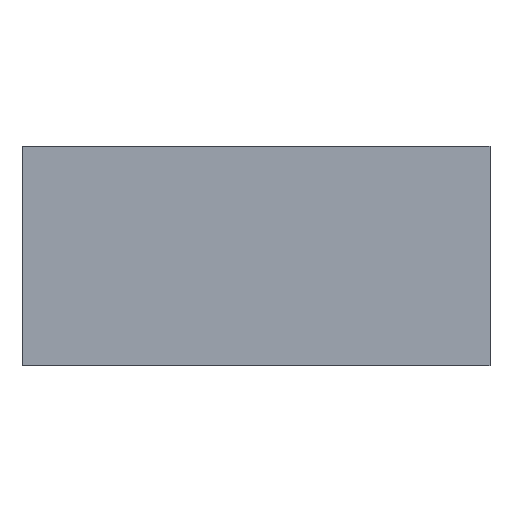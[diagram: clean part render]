
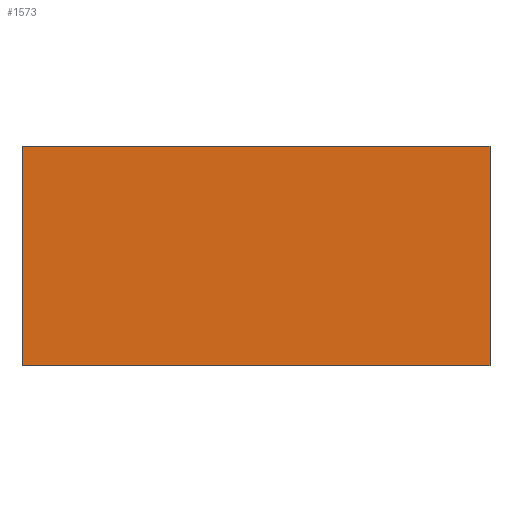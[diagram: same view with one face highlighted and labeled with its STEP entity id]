
A CAD part, front view. The second image highlights one B-rep face of the part: STEP entity #1573.
In plain terms, the highlighted planar face has unit normal (0, -1, 0).
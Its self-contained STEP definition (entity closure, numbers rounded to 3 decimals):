
#75=PLANE('',#1690);
#212=FACE_OUTER_BOUND('',#315,.T.);
#315=EDGE_LOOP('',(#1463,#1464,#1465,#1466,#1467,#1468,#1469,#1470,#1471,
#1472,#1473,#1474));
#432=LINE('',#1990,#519);
#433=LINE('',#2004,#520);
#436=LINE('',#2693,#523);
#440=LINE('',#2759,#527);
#441=LINE('',#2769,#528);
#443=LINE('',#2772,#530);
#450=LINE('',#2849,#537);
#514=LINE('',#3760,#601);
#515=LINE('',#3763,#602);
#516=LINE('',#3767,#603);
#517=LINE('',#3770,#604);
#518=LINE('',#3773,#605);
#519=VECTOR('',#1695,10.);
#520=VECTOR('',#1702,10.);
#523=VECTOR('',#1755,10.);
#527=VECTOR('',#1773,10.);
#528=VECTOR('',#1778,10.);
#530=VECTOR('',#1782,10.);
#537=VECTOR('',#1805,10.);
#601=VECTOR('',#1965,10.);
#602=VECTOR('',#1970,10.);
#603=VECTOR('',#1975,10.);
#604=VECTOR('',#1978,10.);
#605=VECTOR('',#1983,10.);
#606=VERTEX_POINT('',#1988);
#607=VERTEX_POINT('',#1989);
#610=VERTEX_POINT('',#2002);
#611=VERTEX_POINT('',#2003);
#681=VERTEX_POINT('',#2691);
#682=VERTEX_POINT('',#2692);
#694=VERTEX_POINT('',#2758);
#702=VERTEX_POINT('',#2841);
#703=VERTEX_POINT('',#2848);
#761=VERTEX_POINT('',#3759);
#762=VERTEX_POINT('',#3765);
#763=VERTEX_POINT('',#3769);
#764=EDGE_CURVE('',#606,#607,#432,.T.);
#768=EDGE_CURVE('',#610,#611,#433,.T.);
#839=EDGE_CURVE('',#681,#682,#436,.T.);
#853=EDGE_CURVE('',#682,#694,#440,.T.);
#856=EDGE_CURVE('',#607,#610,#441,.T.);
#858=EDGE_CURVE('',#694,#606,#443,.T.);
#872=EDGE_CURVE('',#703,#702,#450,.T.);
#993=EDGE_CURVE('',#611,#761,#514,.T.);
#995=EDGE_CURVE('',#761,#703,#515,.T.);
#997=EDGE_CURVE('',#702,#762,#516,.T.);
#998=EDGE_CURVE('',#762,#763,#517,.T.);
#1000=EDGE_CURVE('',#763,#681,#518,.T.);
#1463=ORIENTED_EDGE('',*,*,#993,.T.);
#1464=ORIENTED_EDGE('',*,*,#995,.T.);
#1465=ORIENTED_EDGE('',*,*,#872,.T.);
#1466=ORIENTED_EDGE('',*,*,#997,.T.);
#1467=ORIENTED_EDGE('',*,*,#998,.T.);
#1468=ORIENTED_EDGE('',*,*,#1000,.T.);
#1469=ORIENTED_EDGE('',*,*,#839,.T.);
#1470=ORIENTED_EDGE('',*,*,#853,.T.);
#1471=ORIENTED_EDGE('',*,*,#858,.T.);
#1472=ORIENTED_EDGE('',*,*,#764,.T.);
#1473=ORIENTED_EDGE('',*,*,#856,.T.);
#1474=ORIENTED_EDGE('',*,*,#768,.T.);
#1573=ADVANCED_FACE('',(#212),#75,.T.);
#1690=AXIS2_PLACEMENT_3D('',#3774,#1984,#1985);
#1695=DIRECTION('',(1.,0.,0.));
#1702=DIRECTION('',(1.,0.,0.));
#1755=DIRECTION('',(0.,0.,1.));
#1773=DIRECTION('',(-1.,0.,0.));
#1778=DIRECTION('',(0.,0.,1.));
#1782=DIRECTION('',(0.,0.,-1.));
#1805=DIRECTION('',(0.,0.,1.));
#1965=DIRECTION('',(0.,0.,-1.));
#1970=DIRECTION('',(1.,0.,0.));
#1975=DIRECTION('',(-1.,0.,0.));
#1978=DIRECTION('',(0.,0.,-1.));
#1983=DIRECTION('',(-1.,0.,0.));
#1984=DIRECTION('center_axis',(0.,-1.,0.));
#1985=DIRECTION('ref_axis',(0.,0.,-1.));
#1988=CARTESIAN_POINT('',(-31.5,292.1,0.032));
#1989=CARTESIAN_POINT('',(-26.5,292.1,0.032));
#1990=CARTESIAN_POINT('',(-26.5,292.1,0.032));
#2002=CARTESIAN_POINT('',(-26.5,292.1,0.048));
#2003=CARTESIAN_POINT('',(33.5,292.1,0.048));
#2004=CARTESIAN_POINT('',(-26.5,292.1,0.048));
#2691=CARTESIAN_POINT('',(-26.5,292.1,32.808));
#2692=CARTESIAN_POINT('',(-26.5,292.1,32.813));
#2693=CARTESIAN_POINT('',(-26.5,292.1,8.465));
#2758=CARTESIAN_POINT('',(-31.5,292.1,32.813));
#2759=CARTESIAN_POINT('',(-26.5,292.1,32.813));
#2769=CARTESIAN_POINT('',(-26.5,292.1,8.465));
#2772=CARTESIAN_POINT('',(-31.5,292.1,8.465));
#2841=CARTESIAN_POINT('',(38.5,292.1,32.813));
#2848=CARTESIAN_POINT('',(38.5,292.1,0.032));
#2849=CARTESIAN_POINT('',(38.5,292.1,8.465));
#3759=CARTESIAN_POINT('',(33.5,292.1,0.032));
#3760=CARTESIAN_POINT('',(33.5,292.1,8.465));
#3763=CARTESIAN_POINT('',(-26.5,292.1,0.032));
#3765=CARTESIAN_POINT('',(33.5,292.1,32.813));
#3767=CARTESIAN_POINT('',(-26.5,292.1,32.813));
#3769=CARTESIAN_POINT('',(33.5,292.1,32.808));
#3770=CARTESIAN_POINT('',(33.5,292.1,8.465));
#3773=CARTESIAN_POINT('',(-26.5,292.1,32.808));
#3774=CARTESIAN_POINT('Origin',(7.5,292.1,9.019));
